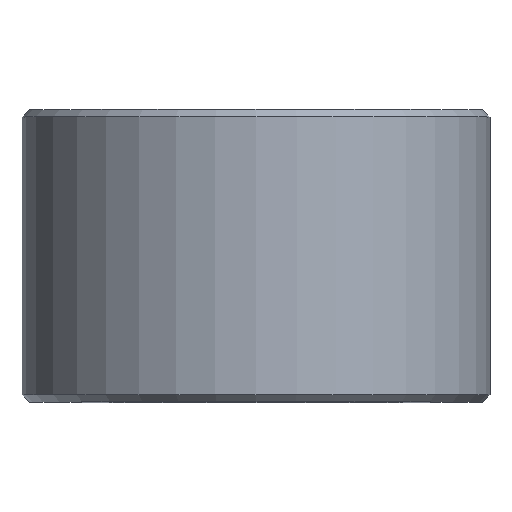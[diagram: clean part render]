
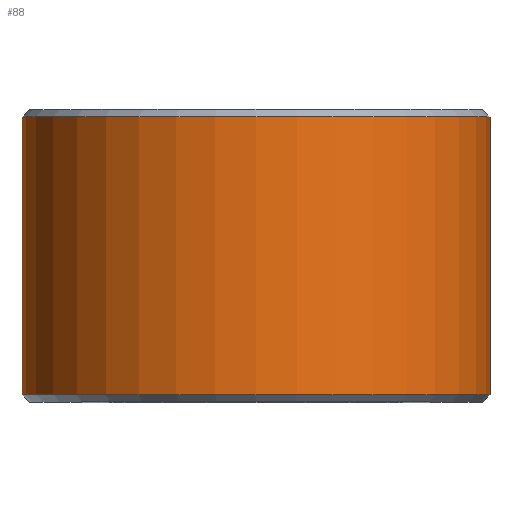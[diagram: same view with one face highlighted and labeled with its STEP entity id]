
A CAD part, top view. The second image highlights one B-rep face of the part: STEP entity #88.
In plain terms, the highlighted cylindrical face has radius 8 mm (diameter 16 mm), a full revolution.
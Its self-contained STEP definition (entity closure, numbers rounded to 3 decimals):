
#19=CYLINDRICAL_SURFACE('',#110,8.);
#22=FACE_OUTER_BOUND('',#28,.T.);
#28=EDGE_LOOP('',(#69,#70,#71,#72));
#36=LINE('',#159,#40);
#40=VECTOR('',#132,8.);
#43=CIRCLE('',#108,8.);
#45=CIRCLE('',#111,8.);
#49=VERTEX_POINT('',#151);
#51=VERTEX_POINT('',#157);
#55=EDGE_CURVE('',#49,#49,#43,.T.);
#58=EDGE_CURVE('',#51,#51,#45,.T.);
#59=EDGE_CURVE('',#51,#49,#36,.T.);
#69=ORIENTED_EDGE('',*,*,#58,.F.);
#70=ORIENTED_EDGE('',*,*,#59,.T.);
#71=ORIENTED_EDGE('',*,*,#55,.F.);
#72=ORIENTED_EDGE('',*,*,#59,.F.);
#88=ADVANCED_FACE('',(#22),#19,.T.);
#108=AXIS2_PLACEMENT_3D('',#152,#123,#124);
#110=AXIS2_PLACEMENT_3D('',#156,#128,#129);
#111=AXIS2_PLACEMENT_3D('',#158,#130,#131);
#123=DIRECTION('center_axis',(0.,-1.,0.));
#124=DIRECTION('ref_axis',(1.,0.,0.));
#128=DIRECTION('center_axis',(0.,1.,0.));
#129=DIRECTION('ref_axis',(1.,0.,0.));
#130=DIRECTION('center_axis',(0.,1.,0.));
#131=DIRECTION('ref_axis',(1.,0.,0.));
#132=DIRECTION('',(0.,-1.,0.));
#151=CARTESIAN_POINT('',(-8.,0.25,0.));
#152=CARTESIAN_POINT('Origin',(0.,0.25,0.));
#156=CARTESIAN_POINT('Origin',(0.,0.,0.));
#157=CARTESIAN_POINT('',(-8.,9.75,0.));
#158=CARTESIAN_POINT('Origin',(0.,9.75,0.));
#159=CARTESIAN_POINT('',(-8.,0.,0.));
